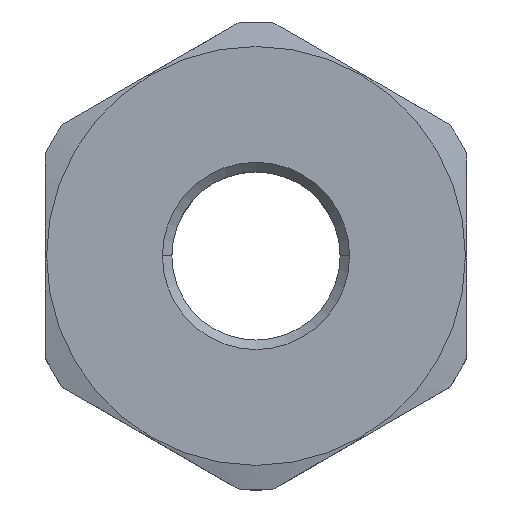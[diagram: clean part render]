
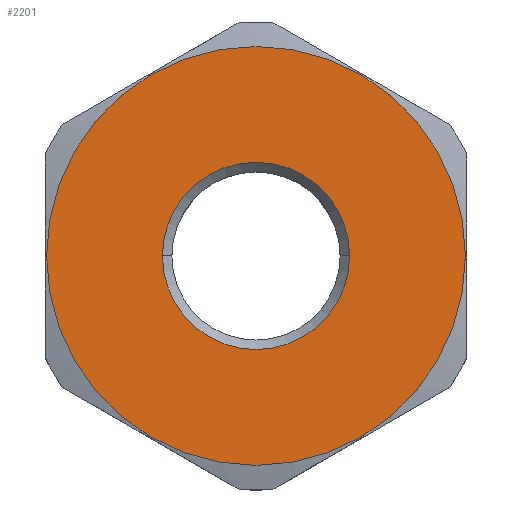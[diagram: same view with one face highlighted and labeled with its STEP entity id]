
A CAD part, top view. The second image highlights one B-rep face of the part: STEP entity #2201.
In plain terms, the highlighted planar face has unit normal (0, 0, 1).
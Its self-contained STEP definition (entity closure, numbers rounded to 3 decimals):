
#1179 = EDGE_CURVE ( 'NONE', #1211, #1264, #1536, .T. ) ;
#1211 = VERTEX_POINT ( 'NONE', #1601 ) ;
#1223 = EDGE_CURVE ( 'NONE', #1288, #1258, #1620, .T. ) ;
#1258 = VERTEX_POINT ( 'NONE', #1693 ) ;
#1263 = EDGE_CURVE ( 'NONE', #1264, #1211, #1703, .T. ) ;
#1264 = VERTEX_POINT ( 'NONE', #1699 ) ;
#1288 = VERTEX_POINT ( 'NONE', #1728 ) ;
#1318 = ORIENTED_EDGE ( 'NONE', *, *, #1263, .T. ) ;
#1516 = DIRECTION ( 'NONE',  ( 1., 0., 0. ) ) ;
#1517 = DIRECTION ( 'NONE',  ( 0., 0., 1. ) ) ;
#1518 = CARTESIAN_POINT ( 'NONE',  ( 0., 0., 0. ) ) ;
#1531 = AXIS2_PLACEMENT_3D ( 'NONE', #1518, #1517, #1516 ) ;
#1536 = CIRCLE ( 'NONE', #1531, 17.9 ) ;
#1601 = CARTESIAN_POINT ( 'NONE',  ( -17.9, 0., 0. ) ) ;
#1605 = DIRECTION ( 'NONE',  ( 0., 0., 1. ) ) ;
#1607 = AXIS2_PLACEMENT_3D ( 'NONE', #1719, #1605, #1683 ) ;
#1620 = CIRCLE ( 'NONE', #1607, 8. ) ;
#1683 = DIRECTION ( 'NONE',  ( 1., 0., 0. ) ) ;
#1693 = CARTESIAN_POINT ( 'NONE',  ( 8., 0., 0. ) ) ;
#1699 = CARTESIAN_POINT ( 'NONE',  ( 17.9, 0., 0. ) ) ;
#1700 = DIRECTION ( 'NONE',  ( 1., 0., 0. ) ) ;
#1701 = DIRECTION ( 'NONE',  ( 0., 0., 1. ) ) ;
#1702 = AXIS2_PLACEMENT_3D ( 'NONE', #1707, #1701, #1700 ) ;
#1703 = CIRCLE ( 'NONE', #1702, 17.9 ) ;
#1707 = CARTESIAN_POINT ( 'NONE',  ( 0., 0., 0. ) ) ;
#1719 = CARTESIAN_POINT ( 'NONE',  ( 0., 0., 0. ) ) ;
#1728 = CARTESIAN_POINT ( 'NONE',  ( -8., 0., 0. ) ) ;
#2024 = DIRECTION ( 'NONE',  ( -1., 0., 0. ) ) ;
#2025 = DIRECTION ( 'NONE',  ( 0., 0., -1. ) ) ;
#2026 = FACE_OUTER_BOUND ( 'NONE', #2193, .T. ) ;
#2027 = FACE_BOUND ( 'NONE', #2202, .T. ) ;
#2028 = DIRECTION ( 'NONE',  ( 1., 0., 0. ) ) ;
#2032 = DIRECTION ( 'NONE',  ( 0., 0., 1. ) ) ;
#2033 = AXIS2_PLACEMENT_3D ( 'NONE', #2042, #2032, #2028 ) ;
#2034 = CIRCLE ( 'NONE', #2033, 8. ) ;
#2035 = CARTESIAN_POINT ( 'NONE',  ( 0., 0., 0. ) ) ;
#2036 = AXIS2_PLACEMENT_3D ( 'NONE', #2035, #2025, #2024 ) ;
#2037 = PLANE ( 'NONE',  #2036 ) ;
#2042 = CARTESIAN_POINT ( 'NONE',  ( 0., 0., 0. ) ) ;
#2178 = ORIENTED_EDGE ( 'NONE', *, *, #1179, .T. ) ;
#2191 = EDGE_CURVE ( 'NONE', #1258, #1288, #2034, .T. ) ;
#2192 = ORIENTED_EDGE ( 'NONE', *, *, #1223, .F. ) ;
#2193 = EDGE_LOOP ( 'NONE', ( #2178, #1318 ) ) ;
#2194 = ORIENTED_EDGE ( 'NONE', *, *, #2191, .F. ) ;
#2201 = ADVANCED_FACE ( 'NONE', ( #2027, #2026 ), #2037, .F. ) ;
#2202 = EDGE_LOOP ( 'NONE', ( #2194, #2192 ) ) ;
